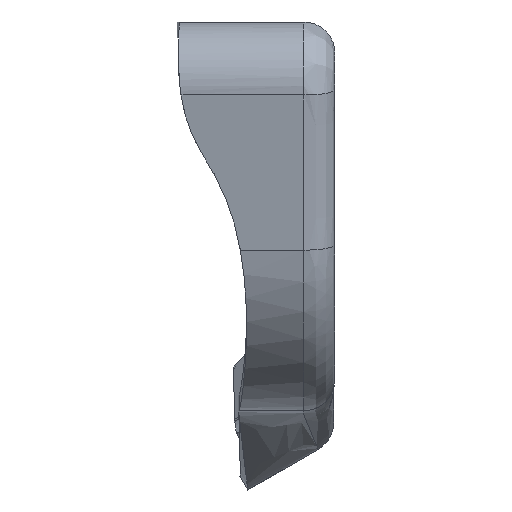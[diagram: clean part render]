
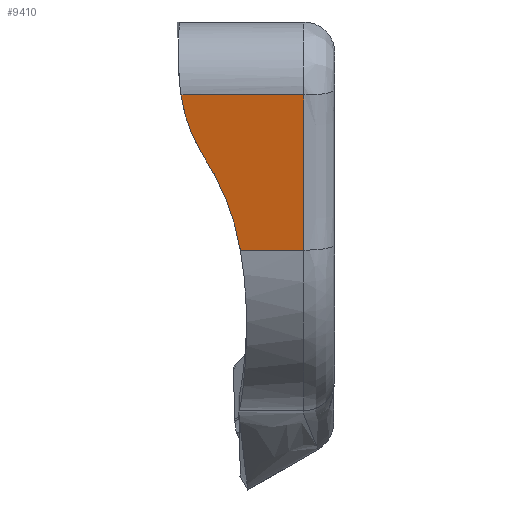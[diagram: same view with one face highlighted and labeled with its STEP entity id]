
A CAD part, left-side view. The second image highlights one B-rep face of the part: STEP entity #9410.
In plain terms, the highlighted free-form (B-spline) face has degree [5, 1] with [6, 2] control points.
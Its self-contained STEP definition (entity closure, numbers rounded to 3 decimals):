
#8387=CARTESIAN_POINT('Vertex',(646.778,-543.412,351.806)) ;
#8518=CARTESIAN_POINT('Vertex',(643.248,-527.603,371.758)) ;
#8740=CARTESIAN_POINT('Vertex',(643.26,-543.415,371.758)) ;
#9010=CARTESIAN_POINT('Control Point',(643.248,-527.603,371.758)) ;
#9011=CARTESIAN_POINT('Control Point',(643.574,-527.863,369.91)) ;
#9012=CARTESIAN_POINT('Control Point',(643.894,-528.359,368.095)) ;
#9013=CARTESIAN_POINT('Control Point',(644.202,-529.085,366.355)) ;
#9014=CARTESIAN_POINT('Control Point',(644.488,-530.02,364.733)) ;
#9015=CARTESIAN_POINT('Vertex',(644.488,-530.02,364.733)) ;
#9056=CARTESIAN_POINT('Control Point',(646.771,-535.232,351.806)) ;
#9057=CARTESIAN_POINT('Control Point',(646.773,-536.868,351.806)) ;
#9058=CARTESIAN_POINT('Control Point',(646.774,-538.504,351.806)) ;
#9059=CARTESIAN_POINT('Control Point',(646.775,-540.14,351.806)) ;
#9060=CARTESIAN_POINT('Control Point',(646.776,-541.776,351.806)) ;
#9061=CARTESIAN_POINT('Control Point',(646.778,-543.412,351.806)) ;
#9062=CARTESIAN_POINT('Vertex',(646.771,-535.232,351.806)) ;
#9180=CARTESIAN_POINT('Control Point',(643.26,-543.415,371.758)) ;
#9181=CARTESIAN_POINT('Control Point',(643.949,-543.415,367.847)) ;
#9182=CARTESIAN_POINT('Control Point',(644.639,-543.414,363.937)) ;
#9183=CARTESIAN_POINT('Control Point',(645.328,-543.413,360.026)) ;
#9184=CARTESIAN_POINT('Control Point',(646.032,-543.413,356.036)) ;
#9185=CARTESIAN_POINT('Control Point',(646.735,-543.412,352.045)) ;
#9186=CARTESIAN_POINT('Control Point',(646.749,-543.412,351.965)) ;
#9187=CARTESIAN_POINT('Control Point',(646.763,-543.412,351.886)) ;
#9188=CARTESIAN_POINT('Control Point',(646.778,-543.412,351.806)) ;
#9211=CARTESIAN_POINT('Control Point',(643.248,-527.603,371.758)) ;
#9212=CARTESIAN_POINT('Control Point',(643.25,-530.766,371.758)) ;
#9213=CARTESIAN_POINT('Control Point',(643.253,-533.928,371.758)) ;
#9214=CARTESIAN_POINT('Control Point',(643.255,-537.09,371.758)) ;
#9215=CARTESIAN_POINT('Control Point',(643.258,-540.253,371.758)) ;
#9216=CARTESIAN_POINT('Control Point',(643.26,-543.415,371.758)) ;
#9361=CARTESIAN_POINT('Control Point',(644.488,-530.02,364.733)) ;
#9362=CARTESIAN_POINT('Control Point',(644.601,-530.389,364.092)) ;
#9363=CARTESIAN_POINT('Control Point',(644.715,-530.759,363.452)) ;
#9364=CARTESIAN_POINT('Control Point',(644.828,-531.128,362.811)) ;
#9365=CARTESIAN_POINT('Control Point',(644.941,-531.497,362.17)) ;
#9366=CARTESIAN_POINT('Control Point',(645.055,-531.866,361.529)) ;
#9367=CARTESIAN_POINT('Vertex',(645.055,-531.866,361.529)) ;
#9382=CARTESIAN_POINT('Control Point',(643.242,-519.415,371.758)) ;
#9383=CARTESIAN_POINT('Control Point',(643.263,-547.415,371.758)) ;
#9384=CARTESIAN_POINT('Control Point',(643.945,-519.415,367.768)) ;
#9385=CARTESIAN_POINT('Control Point',(643.967,-547.415,367.768)) ;
#9386=CARTESIAN_POINT('Control Point',(644.649,-519.414,363.777)) ;
#9387=CARTESIAN_POINT('Control Point',(644.67,-547.414,363.777)) ;
#9388=CARTESIAN_POINT('Control Point',(645.352,-519.413,359.787)) ;
#9389=CARTESIAN_POINT('Control Point',(645.374,-547.413,359.787)) ;
#9390=CARTESIAN_POINT('Control Point',(646.056,-519.413,355.796)) ;
#9391=CARTESIAN_POINT('Control Point',(646.077,-547.413,355.796)) ;
#9392=CARTESIAN_POINT('Control Point',(646.759,-519.412,351.806)) ;
#9393=CARTESIAN_POINT('Control Point',(646.781,-547.412,351.806)) ;
#9395=CARTESIAN_POINT('Control Point',(645.055,-531.866,361.529)) ;
#9396=CARTESIAN_POINT('Control Point',(645.371,-532.898,359.738)) ;
#9397=CARTESIAN_POINT('Control Point',(645.706,-533.738,357.839)) ;
#9398=CARTESIAN_POINT('Control Point',(646.059,-534.378,355.843)) ;
#9399=CARTESIAN_POINT('Control Point',(646.413,-534.874,353.837)) ;
#9400=CARTESIAN_POINT('Control Point',(646.771,-535.232,351.806)) ;
#9017=EDGE_CURVE('',#8519,#9016,#9009,.T.) ;
#9064=EDGE_CURVE('',#9063,#8388,#9055,.T.) ;
#9189=EDGE_CURVE('',#8741,#8388,#9179,.T.) ;
#9217=EDGE_CURVE('',#8519,#8741,#9210,.T.) ;
#9369=EDGE_CURVE('',#9016,#9368,#9360,.T.) ;
#9401=EDGE_CURVE('',#9368,#9063,#9394,.T.) ;
#9403=ORIENTED_EDGE('',*,*,#9064,.T.) ;
#9404=ORIENTED_EDGE('',*,*,#9189,.F.) ;
#9405=ORIENTED_EDGE('',*,*,#9217,.F.) ;
#9406=ORIENTED_EDGE('',*,*,#9017,.T.) ;
#9407=ORIENTED_EDGE('',*,*,#9369,.T.) ;
#9408=ORIENTED_EDGE('',*,*,#9401,.T.) ;
#9410=ADVANCED_FACE('\X2\94A391D14EF6\X0\24.2.26',(#9409),#9381,.T.) ;
#8388=VERTEX_POINT('',#8387) ;
#8519=VERTEX_POINT('',#8518) ;
#8741=VERTEX_POINT('',#8740) ;
#9016=VERTEX_POINT('',#9015) ;
#9063=VERTEX_POINT('',#9062) ;
#9368=VERTEX_POINT('',#9367) ;
#9009=B_SPLINE_CURVE_WITH_KNOTS('',4,(#9010,#9011,#9012,#9013,#9014),.UNSPECIFIED.,.F.,.U.,(5,5),(0.,13.141),.UNSPECIFIED.) ;
#9055=B_SPLINE_CURVE_WITH_KNOTS('',5,(#9056,#9057,#9058,#9059,#9060,#9061),.UNSPECIFIED.,.F.,.U.,(6,6),(15.82,24.),.UNSPECIFIED.) ;
#9179=B_SPLINE_CURVE_WITH_KNOTS('',5,(#9180,#9181,#9182,#9183,#9184,#9185,#9186,#9187,#9188),.UNSPECIFIED.,.F.,.U.,(6,3,6),(20.056,48.135,48.708),.UNSPECIFIED.) ;
#9210=B_SPLINE_CURVE_WITH_KNOTS('',5,(#9211,#9212,#9213,#9214,#9215,#9216),.UNSPECIFIED.,.F.,.U.,(6,6),(8.188,24.),.UNSPECIFIED.) ;
#9360=B_SPLINE_CURVE_WITH_KNOTS('',5,(#9361,#9362,#9363,#9364,#9365,#9366),.UNSPECIFIED.,.F.,.U.,(6,6),(0.,3.741),.UNSPECIFIED.) ;
#9394=B_SPLINE_CURVE_WITH_KNOTS('',5,(#9395,#9396,#9397,#9398,#9399,#9400),.UNSPECIFIED.,.F.,.U.,(6,6),(0.,18.146),.UNSPECIFIED.) ;
#9381=B_SPLINE_SURFACE_WITH_KNOTS('',5,1,((#9382,#9383),(#9384,#9385),(#9386,#9387),(#9388,#9389),(#9390,#9391),(#9392,#9393)),.UNSPECIFIED.,.F.,.F.,.U.,(6,6),(2,2),(0.,20.26),(0.,28.),.UNSPECIFIED.) ;
#9402=EDGE_LOOP('',(#9403,#9404,#9405,#9406,#9407,#9408)) ;
#9409=FACE_OUTER_BOUND('',#9402,.T.) ;
